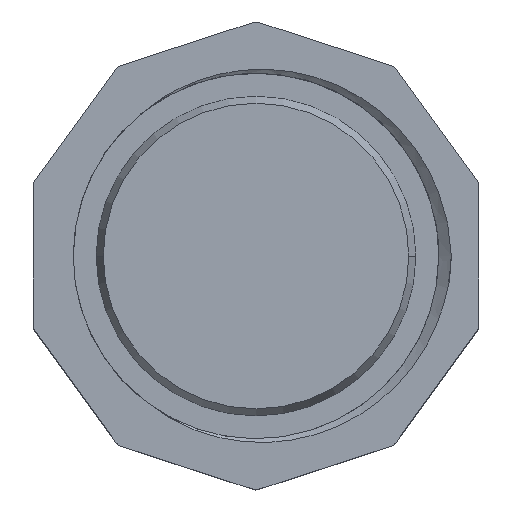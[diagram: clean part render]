
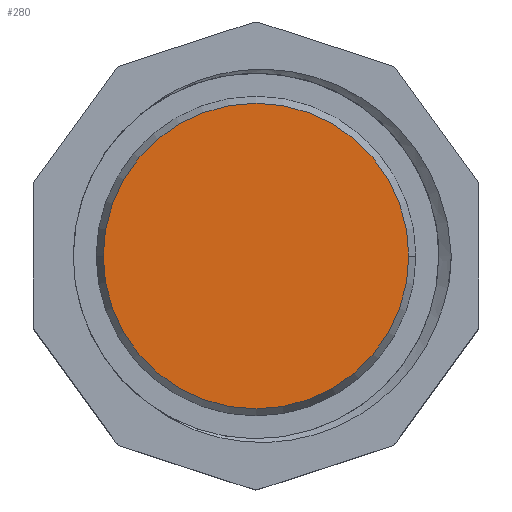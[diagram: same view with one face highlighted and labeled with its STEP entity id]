
A CAD part, top view. The second image highlights one B-rep face of the part: STEP entity #280.
In plain terms, the highlighted planar face has unit normal (0, 0, 1).
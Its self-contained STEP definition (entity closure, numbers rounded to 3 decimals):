
#280=ADVANCED_FACE('',(#560),#561,.T.);
#560=FACE_OUTER_BOUND('',#837,.T.);
#561=PLANE('',#838);
#837=EDGE_LOOP('',(#2596,#2597));
#838=AXIS2_PLACEMENT_3D('',#2598,#2599,#2600);
#2596=ORIENTED_EDGE('',*,*,#2702,.F.);
#2597=ORIENTED_EDGE('',*,*,#2947,.F.);
#2598=CARTESIAN_POINT('',(95.037,135.156,0.561));
#2599=DIRECTION('',(0.0,0.0,1.0));
#2600=DIRECTION('',(-1.0,0.0,0.0));
#2702=EDGE_CURVE('',#3033,#3029,#3035,.T.);
#2947=EDGE_CURVE('',#3029,#3033,#3381,.T.);
#3029=VERTEX_POINT('',#14130);
#3033=VERTEX_POINT('',#14135);
#3035=CIRCLE('',#14138,16.3);
#3381=CIRCLE('',#14580,16.3);
#14130=CARTESIAN_POINT('',(111.337,135.156,0.561));
#14135=CARTESIAN_POINT('',(78.737,135.156,0.561));
#14138=AXIS2_PLACEMENT_3D('',#16089,#16090,#16091);
#14580=AXIS2_PLACEMENT_3D('',#16462,#16463,#16464);
#16089=CARTESIAN_POINT('',(95.037,135.156,0.561));
#16090=DIRECTION('',(0.0,0.0,-1.0));
#16091=DIRECTION('',(1.0,0.0,0.0));
#16462=CARTESIAN_POINT('',(95.037,135.156,0.561));
#16463=DIRECTION('',(0.0,0.0,-1.0));
#16464=DIRECTION('',(1.0,0.0,0.0));
